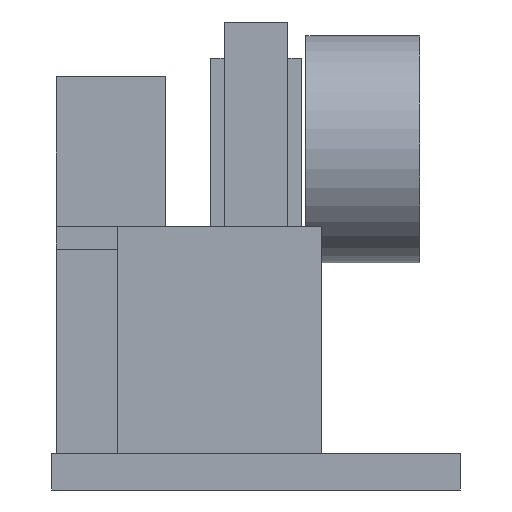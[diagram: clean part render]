
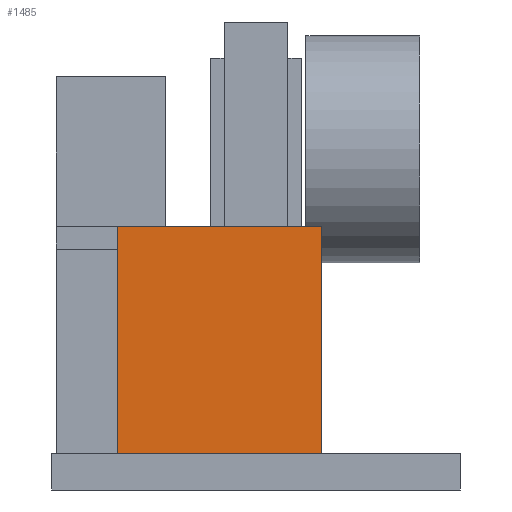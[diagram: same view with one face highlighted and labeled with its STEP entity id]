
A CAD part, left-side view. The second image highlights one B-rep face of the part: STEP entity #1485.
In plain terms, the highlighted planar face has unit normal (-1, 0, 0).
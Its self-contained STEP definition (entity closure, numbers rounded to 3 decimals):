
#168 = PLANE('',#169);
#169 = AXIS2_PLACEMENT_3D('',#170,#171,#172);
#170 = CARTESIAN_POINT('',(-60.,-45.,8.));
#171 = DIRECTION('',(0.,0.,1.));
#172 = DIRECTION('',(1.,0.,-0.));
#562 = VERTEX_POINT('',#563);
#563 = CARTESIAN_POINT('',(-52.,-14.5,8.));
#577 = PLANE('',#578);
#578 = AXIS2_PLACEMENT_3D('',#579,#580,#581);
#579 = CARTESIAN_POINT('',(-52.,-14.5,8.));
#580 = DIRECTION('',(0.,1.,0.));
#581 = DIRECTION('',(0.,-0.,1.));
#589 = EDGE_CURVE('',#562,#590,#592,.T.);
#590 = VERTEX_POINT('',#591);
#591 = CARTESIAN_POINT('',(-52.,30.5,8.));
#592 = SURFACE_CURVE('',#593,(#597,#604),.PCURVE_S1.);
#593 = LINE('',#594,#595);
#594 = CARTESIAN_POINT('',(-52.,-14.5,8.));
#595 = VECTOR('',#596,1.);
#596 = DIRECTION('',(0.,1.,0.));
#597 = PCURVE('',#168,#598);
#598 = DEFINITIONAL_REPRESENTATION('',(#599),#603);
#599 = LINE('',#600,#601);
#600 = CARTESIAN_POINT('',(8.,30.5));
#601 = VECTOR('',#602,1.);
#602 = DIRECTION('',(0.,1.));
#603 = ( GEOMETRIC_REPRESENTATION_CONTEXT(2) 
PARAMETRIC_REPRESENTATION_CONTEXT() REPRESENTATION_CONTEXT('2D SPACE',''
  ) );
#604 = PCURVE('',#605,#610);
#605 = PLANE('',#606);
#606 = AXIS2_PLACEMENT_3D('',#607,#608,#609);
#607 = CARTESIAN_POINT('',(-52.,-14.5,8.));
#608 = DIRECTION('',(1.,0.,0.));
#609 = DIRECTION('',(0.,0.,1.));
#610 = DEFINITIONAL_REPRESENTATION('',(#611),#615);
#611 = LINE('',#612,#613);
#612 = CARTESIAN_POINT('',(0.,0.));
#613 = VECTOR('',#614,1.);
#614 = DIRECTION('',(0.,-1.));
#615 = ( GEOMETRIC_REPRESENTATION_CONTEXT(2) 
PARAMETRIC_REPRESENTATION_CONTEXT() REPRESENTATION_CONTEXT('2D SPACE',''
  ) );
#631 = PLANE('',#632);
#632 = AXIS2_PLACEMENT_3D('',#633,#634,#635);
#633 = CARTESIAN_POINT('',(-52.,30.5,8.));
#634 = DIRECTION('',(0.,1.,0.));
#635 = DIRECTION('',(0.,-0.,1.));
#1017 = PLANE('',#1018);
#1018 = AXIS2_PLACEMENT_3D('',#1019,#1020,#1021);
#1019 = CARTESIAN_POINT('',(-52.,-14.5,58.));
#1020 = DIRECTION('',(0.,0.,1.));
#1021 = DIRECTION('',(1.,0.,-0.));
#1392 = EDGE_CURVE('',#590,#1393,#1395,.T.);
#1393 = VERTEX_POINT('',#1394);
#1394 = CARTESIAN_POINT('',(-52.,30.5,58.));
#1395 = SURFACE_CURVE('',#1396,(#1400,#1407),.PCURVE_S1.);
#1396 = LINE('',#1397,#1398);
#1397 = CARTESIAN_POINT('',(-52.,30.5,8.));
#1398 = VECTOR('',#1399,1.);
#1399 = DIRECTION('',(0.,0.,1.));
#1400 = PCURVE('',#631,#1401);
#1401 = DEFINITIONAL_REPRESENTATION('',(#1402),#1406);
#1402 = LINE('',#1403,#1404);
#1403 = CARTESIAN_POINT('',(0.,0.));
#1404 = VECTOR('',#1405,1.);
#1405 = DIRECTION('',(1.,0.));
#1406 = ( GEOMETRIC_REPRESENTATION_CONTEXT(2) 
PARAMETRIC_REPRESENTATION_CONTEXT() REPRESENTATION_CONTEXT('2D SPACE',''
  ) );
#1407 = PCURVE('',#605,#1408);
#1408 = DEFINITIONAL_REPRESENTATION('',(#1409),#1413);
#1409 = LINE('',#1410,#1411);
#1410 = CARTESIAN_POINT('',(0.,-45.));
#1411 = VECTOR('',#1412,1.);
#1412 = DIRECTION('',(1.,0.));
#1413 = ( GEOMETRIC_REPRESENTATION_CONTEXT(2) 
PARAMETRIC_REPRESENTATION_CONTEXT() REPRESENTATION_CONTEXT('2D SPACE',''
  ) );
#1485 = ADVANCED_FACE('',(#1486),#605,.F.);
#1486 = FACE_BOUND('',#1487,.F.);
#1487 = EDGE_LOOP('',(#1488,#1511,#1512,#1513));
#1488 = ORIENTED_EDGE('',*,*,#1489,.F.);
#1489 = EDGE_CURVE('',#562,#1490,#1492,.T.);
#1490 = VERTEX_POINT('',#1491);
#1491 = CARTESIAN_POINT('',(-52.,-14.5,58.));
#1492 = SURFACE_CURVE('',#1493,(#1497,#1504),.PCURVE_S1.);
#1493 = LINE('',#1494,#1495);
#1494 = CARTESIAN_POINT('',(-52.,-14.5,8.));
#1495 = VECTOR('',#1496,1.);
#1496 = DIRECTION('',(0.,0.,1.));
#1497 = PCURVE('',#605,#1498);
#1498 = DEFINITIONAL_REPRESENTATION('',(#1499),#1503);
#1499 = LINE('',#1500,#1501);
#1500 = CARTESIAN_POINT('',(0.,0.));
#1501 = VECTOR('',#1502,1.);
#1502 = DIRECTION('',(1.,0.));
#1503 = ( GEOMETRIC_REPRESENTATION_CONTEXT(2) 
PARAMETRIC_REPRESENTATION_CONTEXT() REPRESENTATION_CONTEXT('2D SPACE',''
  ) );
#1504 = PCURVE('',#577,#1505);
#1505 = DEFINITIONAL_REPRESENTATION('',(#1506),#1510);
#1506 = LINE('',#1507,#1508);
#1507 = CARTESIAN_POINT('',(0.,0.));
#1508 = VECTOR('',#1509,1.);
#1509 = DIRECTION('',(1.,0.));
#1510 = ( GEOMETRIC_REPRESENTATION_CONTEXT(2) 
PARAMETRIC_REPRESENTATION_CONTEXT() REPRESENTATION_CONTEXT('2D SPACE',''
  ) );
#1511 = ORIENTED_EDGE('',*,*,#589,.T.);
#1512 = ORIENTED_EDGE('',*,*,#1392,.T.);
#1513 = ORIENTED_EDGE('',*,*,#1514,.F.);
#1514 = EDGE_CURVE('',#1490,#1393,#1515,.T.);
#1515 = SURFACE_CURVE('',#1516,(#1520,#1527),.PCURVE_S1.);
#1516 = LINE('',#1517,#1518);
#1517 = CARTESIAN_POINT('',(-52.,-14.5,58.));
#1518 = VECTOR('',#1519,1.);
#1519 = DIRECTION('',(0.,1.,0.));
#1520 = PCURVE('',#605,#1521);
#1521 = DEFINITIONAL_REPRESENTATION('',(#1522),#1526);
#1522 = LINE('',#1523,#1524);
#1523 = CARTESIAN_POINT('',(50.,0.));
#1524 = VECTOR('',#1525,1.);
#1525 = DIRECTION('',(0.,-1.));
#1526 = ( GEOMETRIC_REPRESENTATION_CONTEXT(2) 
PARAMETRIC_REPRESENTATION_CONTEXT() REPRESENTATION_CONTEXT('2D SPACE',''
  ) );
#1527 = PCURVE('',#1017,#1528);
#1528 = DEFINITIONAL_REPRESENTATION('',(#1529),#1533);
#1529 = LINE('',#1530,#1531);
#1530 = CARTESIAN_POINT('',(0.,0.));
#1531 = VECTOR('',#1532,1.);
#1532 = DIRECTION('',(0.,1.));
#1533 = ( GEOMETRIC_REPRESENTATION_CONTEXT(2) 
PARAMETRIC_REPRESENTATION_CONTEXT() REPRESENTATION_CONTEXT('2D SPACE',''
  ) );
